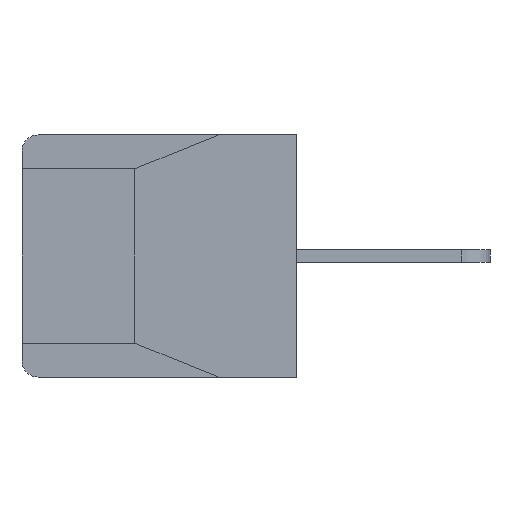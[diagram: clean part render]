
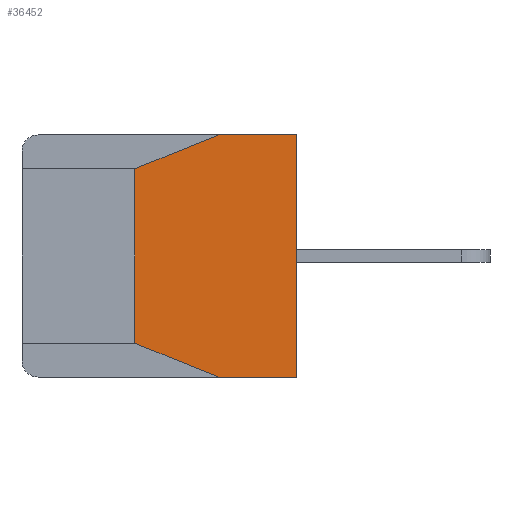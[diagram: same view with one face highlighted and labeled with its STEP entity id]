
A CAD part, left-side view. The second image highlights one B-rep face of the part: STEP entity #36452.
In plain terms, the highlighted planar face has unit normal (-1, 0, 0).
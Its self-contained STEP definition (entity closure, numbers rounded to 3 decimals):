
#3405=DIRECTION('',(0.,1.,0.));
#3406=VECTOR('',#3405,4.85);
#3407=CARTESIAN_POINT('',(0.,0.,-15.));
#3408=LINE('',#3407,#3406);
#3955=DIRECTION('',(0.,0.,-1.));
#3956=VECTOR('',#3955,15.);
#3957=CARTESIAN_POINT('',(0.,0.,0.));
#3958=LINE('',#3957,#3956);
#4049=DIRECTION('',(0.,0.,1.));
#4050=VECTOR('',#4049,10.8);
#4051=CARTESIAN_POINT('',(0.,10.,-12.9));
#4052=LINE('',#4051,#4050);
#4265=DIRECTION('',(0.,-0.926,-0.378));
#4266=VECTOR('',#4265,5.562);
#4267=CARTESIAN_POINT('',(0.,10.,-12.9));
#4268=LINE('',#4267,#4266);
#4269=DIRECTION('',(0.,0.926,-0.378));
#4270=VECTOR('',#4269,5.562);
#4271=CARTESIAN_POINT('',(0.,4.85,0.));
#4272=LINE('',#4271,#4270);
#4273=DIRECTION('',(0.,1.,0.));
#4274=VECTOR('',#4273,4.85);
#4275=CARTESIAN_POINT('',(0.,0.,0.));
#4276=LINE('',#4275,#4274);
#25824=CARTESIAN_POINT('',(0.,0.,0.));
#25825=VERTEX_POINT('',#25824);
#25826=CARTESIAN_POINT('',(0.,4.85,0.));
#25827=VERTEX_POINT('',#25826);
#25898=CARTESIAN_POINT('',(0.,10.,-2.1));
#25899=VERTEX_POINT('',#25898);
#25900=CARTESIAN_POINT('',(0.,10.,-12.9));
#25901=CARTESIAN_POINT('',(0.,4.85,-15.));
#25902=VERTEX_POINT('',#25900);
#25903=VERTEX_POINT('',#25901);
#25904=CARTESIAN_POINT('',(0.,0.,-15.));
#25905=VERTEX_POINT('',#25904);
#36438=CARTESIAN_POINT('',(0.,9.,0.));
#36439=DIRECTION('',(-1.,0.,0.));
#36440=DIRECTION('',(0.,0.,1.));
#36441=AXIS2_PLACEMENT_3D('',#36438,#36439,#36440);
#36442=PLANE('',#36441);
#36443=ORIENTED_EDGE('',*,*,#34926,.T.);
#36445=ORIENTED_EDGE('',*,*,#36444,.F.);
#36446=ORIENTED_EDGE('',*,*,#36067,.T.);
#36447=ORIENTED_EDGE('',*,*,#36433,.F.);
#36448=ORIENTED_EDGE('',*,*,#35189,.F.);
#36449=ORIENTED_EDGE('',*,*,#35821,.T.);
#36450=EDGE_LOOP('',(#36443,#36445,#36446,#36447,#36448,#36449));
#36451=FACE_OUTER_BOUND('',#36450,.F.);
#36452=ADVANCED_FACE('',(#36451),#36442,.T.);
#34926=EDGE_CURVE('',#25905,#25903,#3408,.T.);
#35189=EDGE_CURVE('',#25825,#25827,#4276,.T.);
#35821=EDGE_CURVE('',#25825,#25905,#3958,.T.);
#36067=EDGE_CURVE('',#25902,#25899,#4052,.T.);
#36433=EDGE_CURVE('',#25827,#25899,#4272,.T.);
#36444=EDGE_CURVE('',#25902,#25903,#4268,.T.);
